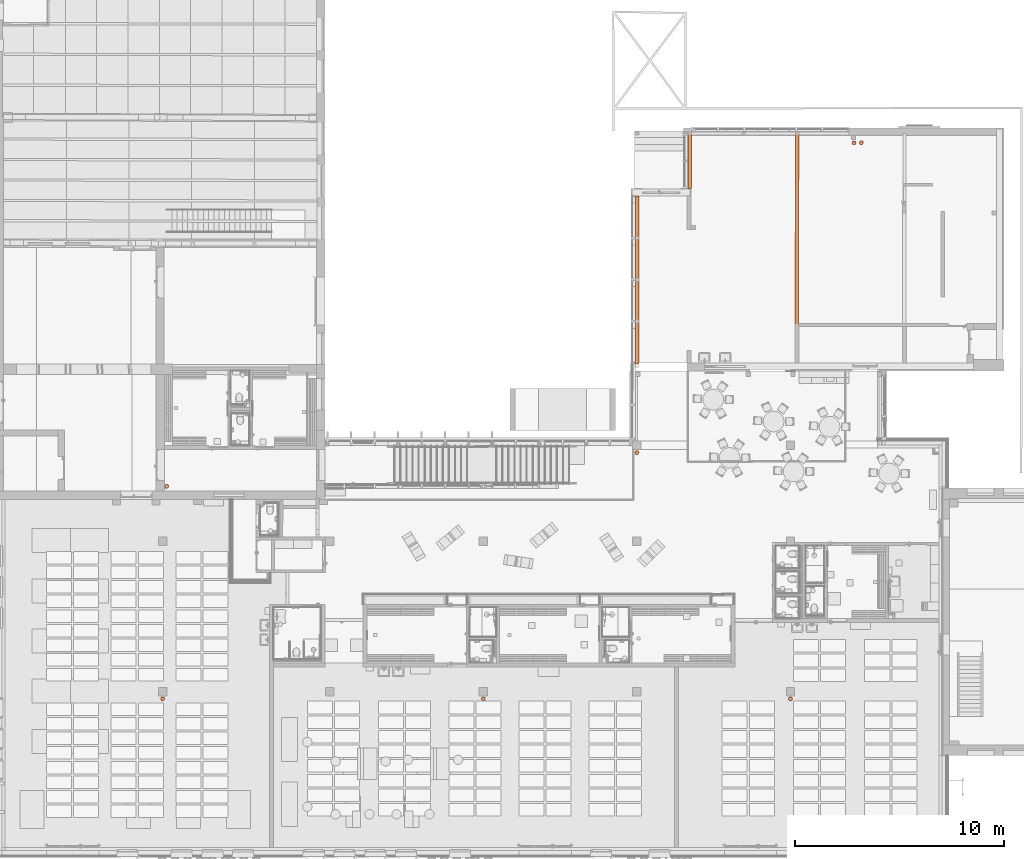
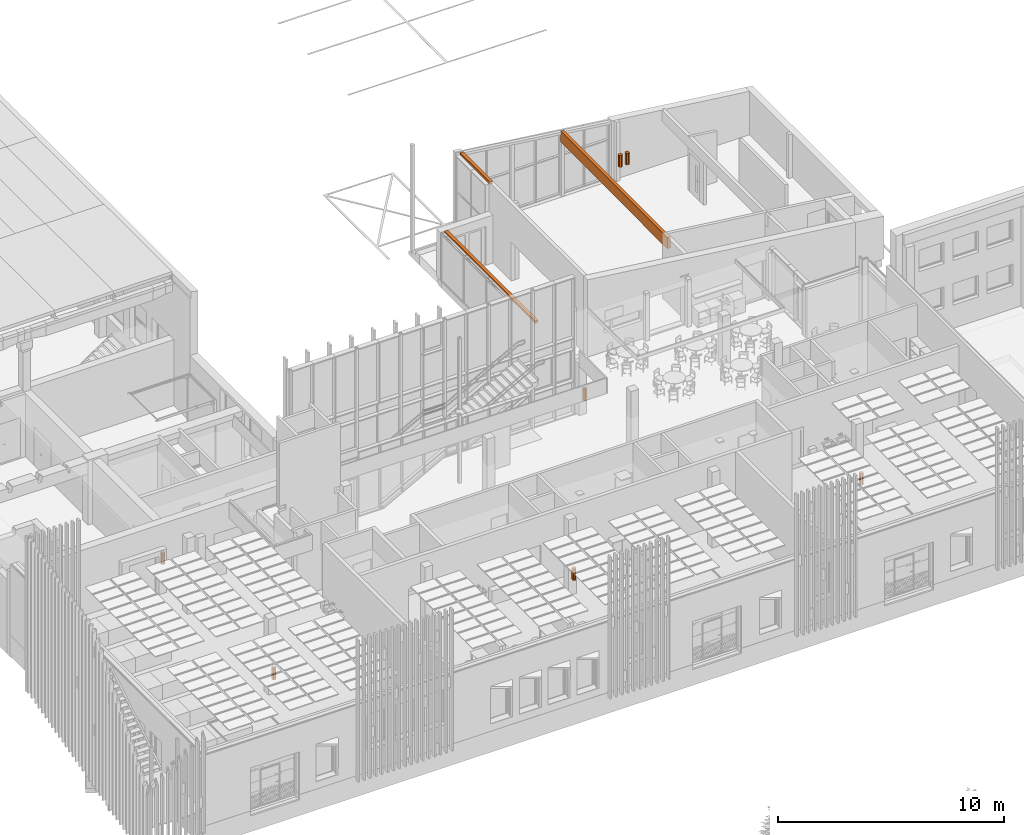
# One storey, part 288 of 301: 10 proxies.
"""IFC2X3 building model written with IfcOpenShell, lengths in millimetres."""

import ifcopenshell
import ifcopenshell.guid

model = None  # the IFC model being written
_history = None  # IfcOwnerHistory: only IFC2X3 demands one
_inside = {}  # id of a spatial element -> (the spatial element, [elements in it])
_under = {}  # id of a project, library or spatial element -> (it, [spatial elements below it])
_declared = {}  # id of a project -> (the project, [libraries it declares])
_typed = {}  # id of a type object -> (the type object, [elements of that type])
_made_of = {}  # id of a material, layer set ... -> (it, [elements and type objects made of it])


def new_model(schema):
    """Start an empty IFC model of exactly this schema.

    Asked for "IFC4X3", IfcOpenShell would pick the latest addendum, in which some entities
    have other attributes; the version numbers below select the first issue.
    IFC2X3 requires an IfcOwnerHistory on every rooted entity: one is made here for all.
    """
    global model, _history
    if schema == "IFC4X3":
        model = ifcopenshell.file(schema_version=(4, 3, 0, 0))
    else:
        model = ifcopenshell.file(schema=schema)
    _inside.clear()
    _under.clear()
    _declared.clear()
    _typed.clear()
    _made_of.clear()
    _history = None
    if model.schema == "IFC2X3":
        org = make("IfcOrganization", Name="unknown")
        user = make(
            "IfcPersonAndOrganization",
            ThePerson=make("IfcPerson", FamilyName="unknown"),
            TheOrganization=org,
        )
        app = make(
            "IfcApplication",
            ApplicationDeveloper=org,
            Version="unknown",
            ApplicationFullName="unknown",
            ApplicationIdentifier="unknown",
        )
        _history = make(
            "IfcOwnerHistory",
            OwningUser=user,
            OwningApplication=app,
            ChangeAction="ADDED",
            CreationDate=0,
        )
    return model


def make(cls, **values):
    """One entity of the class cls with the attributes given. An attribute that is None is left unset."""
    return model.create_entity(
        cls, **{name: value for name, value in values.items() if value is not None}
    )


def entity(cls, *values):
    """Any entity or typed value of the class cls, its attributes in the order of the schema. None: left unset."""
    e = model.create_entity(cls)
    for i, value in enumerate(values):
        if value is not None:
            e[i] = value
    return e


def rooted(cls, **values):
    """An entity with a GlobalId (a new one), such as an element, a storey or a relation."""
    return make(cls, GlobalId=ifcopenshell.guid.new(), OwnerHistory=_history, **values)


def si_unit(unit_type, name, prefix=None):
    """IfcSIUnit, for example si_unit("LENGTHUNIT", "METRE", prefix="MILLI")."""
    return make("IfcSIUnit", UnitType=unit_type, Prefix=prefix, Name=name)


def converted_unit(unit_type, name, factor, base, dimensions=None, offset=None):
    """IfcConversionBasedUnit, such as the inch: factor (a typed value) times the base unit."""
    return make(
        "IfcConversionBasedUnit"
        if offset is None
        else "IfcConversionBasedUnitWithOffset",
        ConversionOffset=offset,
        Dimensions=None
        if dimensions is None
        else entity("IfcDimensionalExponents", *dimensions),
        UnitType=unit_type,
        Name=name,
        ConversionFactor=make(
            "IfcMeasureWithUnit", ValueComponent=factor, UnitComponent=base
        ),
    )


def derived_unit(unit_type, elements):
    """IfcDerivedUnit: a product of units, each with its exponent."""
    return make(
        "IfcDerivedUnit",
        Elements=[
            make("IfcDerivedUnitElement", Unit=unit, Exponent=power)
            for unit, power in elements
        ],
        UnitType=unit_type,
    )


def money_unit(currency):
    """IfcMonetaryUnit."""
    return make("IfcMonetaryUnit", Currency=currency)


def assignment(units):
    """IfcUnitAssignment: the units of a project."""
    return None if units is None else make("IfcUnitAssignment", Units=units)


def point(xyz):
    """IfcCartesianPoint."""
    return None if xyz is None else make("IfcCartesianPoint", Coordinates=xyz)


def direction(xyz):
    """IfcDirection."""
    return None if xyz is None else make("IfcDirection", DirectionRatios=xyz)


def frame(location, z_axis=None, x_axis=None):
    """IfcAxis2Placement3D, a coordinate frame: its origin and axes. An axis left out is left unset."""
    return make(
        "IfcAxis2Placement3D",
        Location=point(location),
        Axis=direction(z_axis),
        RefDirection=direction(x_axis),
    )


def origin_with_axes():
    """The frame at (0, 0, 0) with the z axis (0, 0, 1) and the x axis (1, 0, 0) written out."""
    return frame((0.0, 0.0, 0.0), z_axis=(0.0, 0.0, 1.0), x_axis=(1.0, 0.0, 0.0))


def place(relative_to, where):
    """IfcLocalPlacement: puts the frame where relative to a parent placement (None: the world)."""
    return make(
        "IfcLocalPlacement", PlacementRelTo=relative_to, RelativePlacement=where
    )


def context(
    kind, dimensions, precision=None, world=None, true_north=None, identifier=None
):
    """IfcGeometricRepresentationContext, for example the 3D "Model" context."""
    return make(
        "IfcGeometricRepresentationContext",
        ContextIdentifier=identifier,
        ContextType=kind,
        CoordinateSpaceDimension=dimensions,
        Precision=precision,
        WorldCoordinateSystem=world,
        TrueNorth=true_north,
    )


def subcontext(parent, identifier, kind, view, scale=None):
    """IfcGeometricRepresentationSubContext, for example "Body" below "Model"."""
    return make(
        "IfcGeometricRepresentationSubContext",
        ContextIdentifier=identifier,
        ContextType=kind,
        ParentContext=parent,
        TargetScale=scale,
        TargetView=view,
    )


def project(units=None, contexts=None):
    """IfcProject with its units and contexts."""
    return rooted(
        "IfcProject",
        Name="project",
        RepresentationContexts=contexts,
        UnitsInContext=assignment(units),
    )


def spatial(cls, under=None, at=None, **own):
    """A site, building, storey or space (cls), placed at a placement, below another one or the project."""
    s = rooted(cls, ObjectPlacement=at, **own)
    if under is not None:
        _under.setdefault(under.id(), (under, []))[1].append(s)
    return s


def faces_of(points, faces, orient=None, outer=None):
    """IfcFace entities. A face is a list of loops; a loop is a list of indices into points, from 0.

    orient and outer hold one flag for each loop. By default every Orientation is true, the
    first loop of a face is its IfcFaceOuterBound and the others are IfcFaceBound.
    """
    made = []
    for i, loops in enumerate(faces):
        bounds = []
        for j, loop in enumerate(loops):
            is_outer = j == 0 if outer is None else outer[i][j]
            bounds.append(
                make(
                    "IfcFaceOuterBound" if is_outer else "IfcFaceBound",
                    Bound=make("IfcPolyLoop", Polygon=[points[k] for k in loop]),
                    Orientation=True if orient is None else orient[i][j],
                )
            )
        made.append(make("IfcFace", Bounds=bounds))
    return made


def faceted_brep(points, faces, orient=None, outer=None, voids=None):
    """IfcFacetedBrep: a solid bounded by flat faces; with voids (closed shells), ...WithVoids."""
    shared = [point(p) for p in points]
    hull = make("IfcClosedShell", CfsFaces=faces_of(shared, faces, orient, outer))
    if voids is None:
        return make("IfcFacetedBrep", Outer=hull)
    return make(
        "IfcFacetedBrepWithVoids",
        Outer=hull,
        Voids=[
            make(cls, CfsFaces=faces_of(shared, fs, o, b)) for cls, fs, o, b in voids
        ],
    )


def shape(context_of_items, identifier, shape_type, items):
    """IfcShapeRepresentation: the items that make up one representation, for example the "Body"."""
    return make(
        "IfcShapeRepresentation",
        ContextOfItems=context_of_items,
        RepresentationIdentifier=identifier,
        RepresentationType=shape_type,
        Items=items,
    )


def source(mapping_origin, context_of_items, identifier, shape_type, items):
    """IfcRepresentationMap: a shape defined once, which mapped items show again and again."""
    return make(
        "IfcRepresentationMap",
        MappingOrigin=mapping_origin,
        MappedRepresentation=shape(context_of_items, identifier, shape_type, items),
    )


def transform(
    local_origin,
    x_axis=None,
    y_axis=None,
    z_axis=None,
    scale=None,
    scale2=None,
    scale3=None,
    uniform=True,
):
    """IfcCartesianTransformationOperator3D, or its non-uniform kind. x_axis, y_axis, z_axis: its Axis1, 2, 3."""
    if uniform:
        return make(
            "IfcCartesianTransformationOperator3D",
            Axis1=direction(x_axis),
            Axis2=direction(y_axis),
            LocalOrigin=point(local_origin),
            Scale=scale,
            Axis3=direction(z_axis),
        )
    return make(
        "IfcCartesianTransformationOperator3DnonUniform",
        Axis1=direction(x_axis),
        Axis2=direction(y_axis),
        LocalOrigin=point(local_origin),
        Scale=scale,
        Axis3=direction(z_axis),
        Scale2=scale2,
        Scale3=scale3,
    )


def mapped(mapping_source, mapping_target):
    """IfcMappedItem: shows the shape of a source again, moved by a transform."""
    return make(
        "IfcMappedItem", MappingSource=mapping_source, MappingTarget=mapping_target
    )


def material(Name=None, Category=None):
    """IfcMaterial."""
    return make("IfcMaterial", Name=Name, Category=Category)


def made_of(thing, what):
    """Note that an element or type object is made of a material, layer set ...; save() writes the relation."""
    if what is not None:
        _made_of.setdefault(what.id(), (what, []))[1].append(thing)
    return thing


def type_object(cls, material=None, **own):
    """A type object (cls), such as IfcWallType, which elements share."""
    return made_of(rooted(cls, **own), material)


def element(
    cls,
    number,
    at=None,
    inside=None,
    cuts=None,
    type_object=None,
    material=None,
    context=None,
    identifier="Body",
    shape_type=None,
    held_by="IfcProductDefinitionShape",
    body=None,
    shapes=None,
    **own,
):
    """One element of the class cls, such as IfcWall. Its Tag is "e" and its number.

    at: its placement. inside: the storey or other place that contains it. cuts: it is an
    opening in that element (IfcRelVoidsElement). A single representation is given by context,
    identifier, shape_type and body (its items); several are given by shapes. held_by: the class
    of the entity that holds the representations. save() writes the other relations.
    """
    e = rooted(cls, Tag="e%d" % number, ObjectPlacement=at, **own)
    if body is not None:
        shapes = [shape(context, identifier, shape_type, body)]
    if shapes is not None:
        e.Representation = make(held_by, Representations=shapes)
    if inside is not None:
        _inside.setdefault(inside.id(), (inside, []))[1].append(e)
    if cuts is not None:
        rooted(
            "IfcRelVoidsElement", RelatingBuildingElement=cuts, RelatedOpeningElement=e
        )
    if type_object is not None:
        _typed.setdefault(type_object.id(), (type_object, []))[1].append(e)
    return made_of(e, material)


def aggregate(whole, parts):
    """IfcRelAggregates: a whole, such as a stair, and the parts it consists of."""
    return rooted("IfcRelAggregates", RelatingObject=whole, RelatedObjects=parts)


def save(model, path):
    """Write the relations noted so far, then the file.

    IfcRelAggregates (storeys below a building ...), IfcRelContainedInSpatialStructure (elements
    in a storey), IfcRelDefinesByType, IfcRelAssociatesMaterial and IfcRelDeclares: one each for
    every whole, place, type object, material and project.
    """
    for whole, parts in _under.values():
        aggregate(whole, parts)
    for where, things in _inside.values():
        rooted(
            "IfcRelContainedInSpatialStructure",
            RelatedElements=things,
            RelatingStructure=where,
        )
    for kind, things in _typed.values():
        rooted("IfcRelDefinesByType", RelatedObjects=things, RelatingType=kind)
    for what, things in _made_of.values():
        rooted("IfcRelAssociatesMaterial", RelatedObjects=things, RelatingMaterial=what)
    for by, libraries in _declared.values():
        rooted("IfcRelDeclares", RelatingContext=by, RelatedDefinitions=libraries)
    model.write(path)


model = new_model("IFC2X3")

# Units and contexts
model_context = context("Model", 3, precision=0.01, world=origin_with_axes(), true_north=direction((0.0, 1.0)))
body_context = subcontext(model_context, "Body", "Model", "MODEL_VIEW")
ifc_project = project(units=[si_unit("LENGTHUNIT", "METRE", prefix="MILLI"), si_unit("AREAUNIT", "SQUARE_METRE"), si_unit("VOLUMEUNIT", "CUBIC_METRE"), converted_unit("PLANEANGLEUNIT", "DEGREE", entity("IfcPlaneAngleMeasure", 0.0174532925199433), si_unit("PLANEANGLEUNIT", "RADIAN"), dimensions=[0, 0, 0, 0, 0, 0, 0]), money_unit("EUR"), converted_unit("TIMEUNIT", "Year", entity("IfcTimeMeasure", 31557600.0), si_unit("TIMEUNIT", "SECOND"), dimensions=[0, 0, 1, 0, 0, 0, 0]), si_unit("MASSUNIT", "GRAM", prefix="KILO"), si_unit("THERMODYNAMICTEMPERATUREUNIT", "DEGREE_CELSIUS"), si_unit("LUMINOUSINTENSITYUNIT", "LUMEN"), si_unit("ENERGYUNIT", "JOULE", prefix="MEGA"), derived_unit("THERMALCONDUCTANCEUNIT", [(si_unit("POWERUNIT", "WATT"), 1), (si_unit("LENGTHUNIT", "METRE"), -1), (si_unit("THERMODYNAMICTEMPERATUREUNIT", "KELVIN"), -1)]), derived_unit("SPECIFICHEATCAPACITYUNIT", [(si_unit("ENERGYUNIT", "JOULE"), 1), (si_unit("MASSUNIT", "GRAM", prefix="KILO"), -1), (si_unit("THERMODYNAMICTEMPERATUREUNIT", "KELVIN"), -1)]), derived_unit("MASSDENSITYUNIT", [(si_unit("MASSUNIT", "GRAM", prefix="KILO"), 1), (si_unit("VOLUMEUNIT", "CUBIC_METRE"), -1)])], contexts=[model_context])

# Site, building, storey
site_placement = place(None, frame((0.0, 0.0, 8650.0), z_axis=(0.0, 0.0, 1.0), x_axis=(1.0, 0.0, 0.0)))
site = spatial("IfcSite", under=ifc_project, at=site_placement, Name="43301:001:0844", CompositionType="ELEMENT")
building_placement = place(site_placement, origin_with_axes())
building = spatial("IfcBuilding", under=site, at=building_placement, Name="Kuressaare Ametikooli tuulikute mehaanikute õppekorpus", CompositionType="ELEMENT")
storey_placement = place(building_placement, origin_with_axes())
storey = spatial("IfcBuildingStorey", under=building, at=storey_placement, Name="1.korrus", CompositionType="ELEMENT", Elevation=0.0)

# Proxies
building_element_proxy_type_1 = type_object("IfcBuildingElementProxyType", Name="Pressurized Extinguisher 27", PredefinedType="NOTDEFINED")
shared_shape = source(origin_with_axes(), body_context, "Body", "Brep", [
    faceted_brep([(-70.71067811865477, -70.71067811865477, 0.0), (-100.0, 0.0, 0.0), (-70.71067811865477, 70.71067811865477, 0.0), (0.0, 100.0, 0.0), (70.71067811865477, 70.71067811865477, 0.0), (100.0, 0.0, 0.0), (70.71067811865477, -70.71067811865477, 0.0), (0.0, -100.0, 0.0), (-70.71067811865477, -70.71067811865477, 635.0), (-100.0, 0.0, 635.0), (-70.71067811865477, 70.71067811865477, 635.0), (0.0, 100.0, 635.0), (70.71067811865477, 70.71067811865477, 635.0), (100.0, 0.0, 635.0), (70.71067811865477, -70.71067811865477, 635.0), (0.0, -100.0, 635.0)], [[[0, 1, 2, 3, 4, 5, 6, 7]], [[0, 8, 9, 1]], [[1, 9, 10, 2]], [[2, 10, 11, 3]], [[3, 11, 12, 4]], [[4, 12, 13, 5]], [[5, 13, 14, 6]], [[6, 14, 15, 7]], [[7, 15, 8, 0]], [[8, 15, 14, 13, 12, 11, 10, 9]]]),
])
for number, where, z_axis, x_axis in (
    (1, (129311.5910056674, 42857.25488629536, 900.0), (0.0, 0.0, 1.0), (-1.0, 0.0, 0.0)),
    (2, (96057.18379360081, 26411.31295662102, 900.0), (0.0, 0.0, 1.0), (0.0, -1.0, 0.0)),
    (3, (111217.9493746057, 16240.09269454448, 900.0), (0.0, 0.0, 1.0), (-1.0, 0.0, 0.0)),
    (4, (125918.0683571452, 16240.09269454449, 900.0), (0.0, 0.0, 1.0), (-1.0, 0.0, 0.0)),
    (5, (95868.06842900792, 16240.09269454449, 900.0), (0.0, 0.0, 1.0), (-1.0, 0.0, 0.0)),
    (6, (118567.946571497, 28023.511762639, 900.0), (0.0, 0.0, 1.0), (-1.0, 0.0, 0.0)),
    (7, (128959.3167681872, 42857.25488629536, 900.0), (0.0, 0.0, 1.0), (-1.0, 0.0, 0.0)),
):
    element("IfcBuildingElementProxy", number, at=place(storey_placement, frame(where, z_axis=z_axis, x_axis=x_axis)), inside=storey, type_object=building_element_proxy_type_1, Name="Kandilinekanal Lindab", context=body_context, shape_type="MappedRepresentation", body=[
        mapped(shared_shape, transform((0.0, 0.0, 0.0))),
    ])
ifc_material = material(Name="GENEERILINE - KONSTRUKTRIOON")
building_element_proxy_type_2 = type_object("IfcBuildingElementProxyType", Name="GENEERILINE - KONSTRUKTRIOON 160 x 600", PredefinedType="NOTDEFINED")
proxy_1_placement = place(storey_placement, frame((126242.0702886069, 43298.03176304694, 3510.0), z_axis=(0.0, 0.0, 1.0), x_axis=(-0.9999957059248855, 0.002930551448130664, 0.0)))
element("IfcBuildingElementProxy", 8, at=proxy_1_placement, inside=storey, type_object=building_element_proxy_type_2, material=ifc_material, context=body_context, shape_type="Brep", body=[
    faceted_brep([(-79.99999999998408, 0.0, -167.520584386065), (-79.99999999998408, 77.26588766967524, -167.4918687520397), (-79.99999999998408, 77.26588766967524, -36.45065439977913), (-79.99999999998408, 0.0, -36.47937003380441), (-79.99999999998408, 0.0, 0.0), (-79.9999999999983, 9498.288188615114, 0.0), (-79.9999999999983, 9498.288188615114, -600.0000000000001), (-79.99999999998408, 0.0, -600.0000000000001), (80.0000000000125, 77.73477791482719, -147.2008847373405), (79.9999999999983, 0.0, -147.2297746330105), (80.0000000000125, 77.73477791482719, -16.15967038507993), (79.9999999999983, 0.0, -16.18856028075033), (79.9999999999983, 0.0, 0.0), (79.9999999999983, 9498.288188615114, 0.0), (79.9999999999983, 9498.288188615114, -600.0000000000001), (79.9999999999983, 0.0, -600.0000000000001)], [[[0, 1, 2, 3, 4, 5, 6, 7]], [[8, 1, 0, 9]], [[10, 2, 1, 8]], [[10, 11, 3, 2]], [[4, 3, 11, 12]], [[4, 12, 13, 5]], [[13, 14, 6, 5]], [[15, 7, 6, 14]], [[15, 9, 0, 7]], [[10, 8, 9, 15, 14, 13, 12, 11]]]),
])
building_element_proxy_type_3 = type_object("IfcBuildingElementProxyType", Name="GENEERILINE - KONSTRUKTRIOON 160 x 130", PredefinedType="NOTDEFINED")
proxy_2_placement = place(storey_placement, frame((118579.5490393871, 40318.78491300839, 2590.0), z_axis=(0.0, 0.0, 1.0), x_axis=(-1.0, 0.0, 0.0)))
element("IfcBuildingElementProxy", 9, at=proxy_2_placement, inside=storey, type_object=building_element_proxy_type_3, material=ifc_material, context=body_context, shape_type="Brep", body=[
    faceted_brep([(-79.9999999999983, 0.0, -129.9999999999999), (-79.9999999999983, 8029.12649691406, -129.9999999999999), (79.9999999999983, 8029.12649691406, -129.9999999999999), (79.9999999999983, 0.0, -129.9999999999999), (-79.9999999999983, 0.0, 0.0), (-79.9999999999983, 8029.12649691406, 0.0), (79.9999999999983, 8029.12649691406, 0.0), (79.9999999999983, 0.0, 0.0)], [[[0, 1, 2, 3]], [[4, 5, 1, 0]], [[2, 1, 5, 6]], [[3, 2, 6, 7]], [[4, 0, 3, 7]], [[7, 6, 5, 4]]]),
])
proxy_3_placement = place(storey_placement, frame((121099.5702886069, 43300.53176304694, 4139.679633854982), z_axis=(0.0, 0.0, 1.0), x_axis=(-1.0, 0.0, 0.0)))
element("IfcBuildingElementProxy", 10, at=proxy_3_placement, inside=storey, type_object=building_element_proxy_type_3, material=ifc_material, context=body_context, shape_type="Brep", body=[
    faceted_brep([(-79.9999999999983, 0.0, -129.9999999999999), (-79.9999999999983, 2621.746850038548, -129.9999999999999), (79.9999999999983, 2621.746850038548, -129.9999999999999), (79.9999999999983, 0.0, -129.9999999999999), (-79.9999999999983, 0.0, 0.0), (-79.9999999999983, 2621.746850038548, 0.0), (79.9999999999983, 2621.746850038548, 0.0), (79.9999999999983, 0.0, 0.0)], [[[0, 1, 2, 3]], [[4, 5, 1, 0]], [[2, 1, 5, 6]], [[3, 2, 6, 7]], [[4, 0, 3, 7]], [[7, 6, 5, 4]]]),
])

save(model, "model.ifc")
